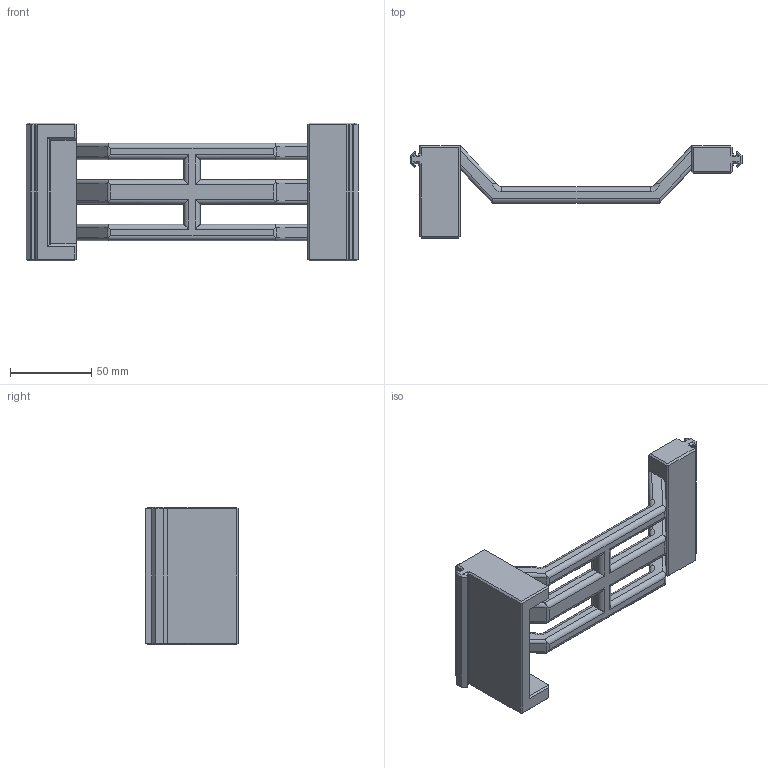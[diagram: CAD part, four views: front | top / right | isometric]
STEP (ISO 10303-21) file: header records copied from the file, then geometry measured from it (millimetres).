
FILE_DESCRIPTION(/* description */ ('STEP AP242 Edition 2','CAx-IF Rec.Pracs.---Representation and Presentation of Product Manufacturing Information (PMI)---4.0---2014-10-13','CAx-IF Rec.Pracs.---3D Tessellated Geometry---0.4---2014-09-14','2;1','CAx-IF Rec.Pracs.---User Defined Attributes---1.5---2016-08-15'),/* implementation_level */ '2;1');
FILE_NAME(/* name */ 'Tarok - Total Assemply - Upper Battery Holder',/* time_stamp */ '2026-05-23T09:34:08Z',/* author */ (''),/* organization */ (''),/* preprocessor_version */ 'ST-DEVELOPER v20',/* originating_system */ 'ONSHAPE BY PTC INC, 1.215',/* authorisation */ ' ');
FILE_SCHEMA (('AP242_MANAGED_MODEL_BASED_3D_ENGINEERING_MIM_LF { 1 0 10303 442 3 1 4 }'));
Length unit declared in the file: metre
Products named in the file (1): Upper Battery Holder
Bounding box: 204.8 x 57 x 85 mm (x, y, z)
Volume: 197255.3 mm3; surface area: 46529.5 mm2
Topology: 1 solids, 1 shells, 238 faces, 610 edges, 364 vertices
Faces by surface type: plane 155, cylinder 69, torus 12, sphere 2
Entity records: 7102 total; most frequent: CARTESIAN_POINT 1391, ORIENTED_EDGE 1216, DIRECTION 1138, EDGE_CURVE 608, LINE 460, VECTOR 460, VERTEX_POINT 364, AXIS2_PLACEMENT_3D 339
